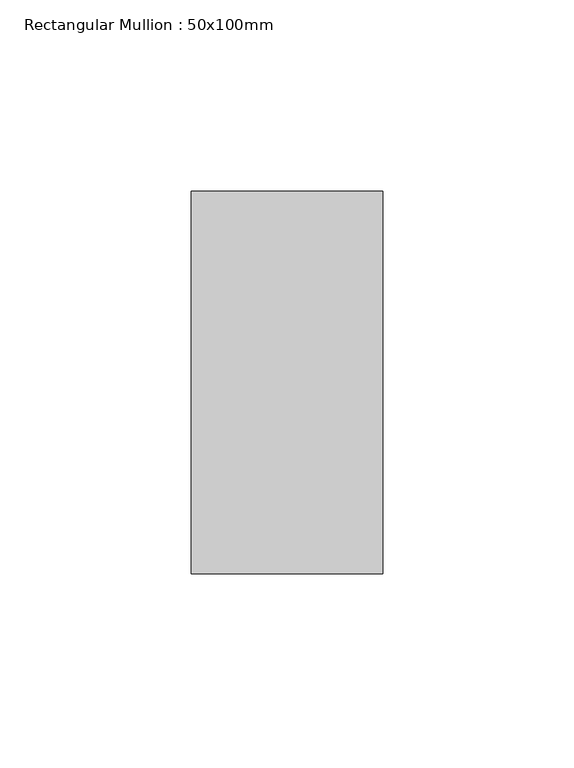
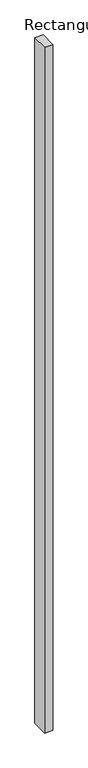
"""IFC4 building model written with IfcOpenShell, lengths in millimetres: member geometry, Rectangular Mullion : 50x100mm."""

from ifc_helpers import new_model, si_unit, frame, origin, place, context, project, spatial, polyline, outline, extrude, source, transform, mapped, element, save


def rectangular_mullion_50x100mm_7455a71f(model_context):
    return source(origin(), model_context, "Body", "SweptSolid", [
        extrude(outline(polyline([(25.0, 50.0), (25.0, -50.0), (-25.0, -50.0), (-25.0, 50.0), (25.0, 50.0)])), frame((0.0, 0.0, -4330.0), z_axis=(0.0, 0.0, 1.0), x_axis=(1.0, 0.0, 0.0)), (0.0, 0.0, 1.0), 4330.0),
    ])


if __name__ == "__main__":
    model = new_model("IFC4")
    model_context = context("Model", 3, world=origin())
    ifc_project = project(units=[si_unit("LENGTHUNIT", "METRE", prefix="MILLI")], contexts=[model_context])
    site = spatial("IfcSite", under=ifc_project)
    building = spatial("IfcBuilding", under=site)
    placement = place(None, origin())
    rectangular_mullion_50x100mm_shape = rectangular_mullion_50x100mm_7455a71f(model_context)
    element("IfcMember", 1, ObjectType="Rectangular Mullion : 50x100mm", at=placement, inside=building, context=model_context, shape_type="MappedRepresentation", body=[
        mapped(rectangular_mullion_50x100mm_shape, transform((0.0, 0.0, 0.0), x_axis=(1.0, 0.0, 0.0), y_axis=(0.0, 1.0, 0.0), z_axis=(0.0, 0.0, 1.0))),
    ])
    save(model, "model.ifc")
